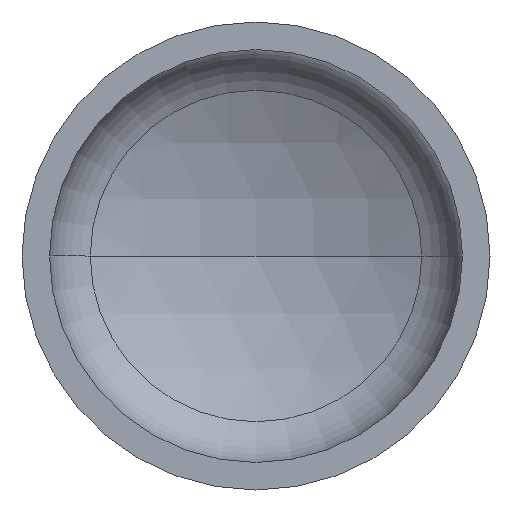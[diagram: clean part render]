
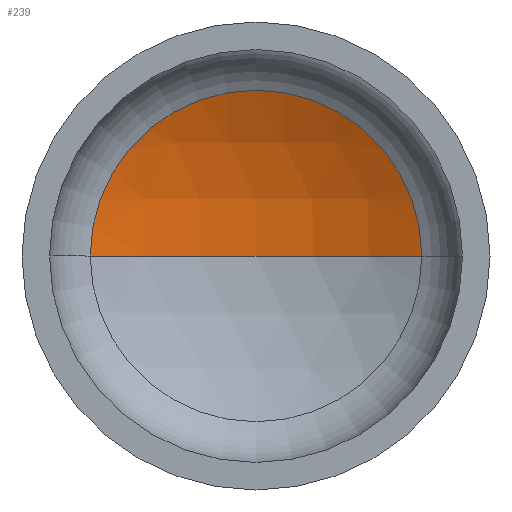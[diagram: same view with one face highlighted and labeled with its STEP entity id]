
A CAD part, front view. The second image highlights one B-rep face of the part: STEP entity #239.
In plain terms, the highlighted spherical face has radius 640 mm.
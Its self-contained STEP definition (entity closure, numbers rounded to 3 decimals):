
#6 = FACE_OUTER_BOUND ( 'NONE', #261, .T. ) ;
#14 = DIRECTION ( 'NONE',  ( -1., 0., 0. ) ) ;
#17 = DIRECTION ( 'NONE',  ( 0., 0., -1. ) ) ;
#19 = CARTESIAN_POINT ( 'NONE',  ( 283.34, 262.083, 0. ) ) ;
#33 = EDGE_CURVE ( 'NONE', #161, #193, #133, .T. ) ;
#34 = EDGE_CURVE ( 'NONE', #369, #161, #219, .T. ) ;
#55 = CARTESIAN_POINT ( 'NONE',  ( 0., -311.78, 0. ) ) ;
#56 = AXIS2_PLACEMENT_3D ( 'NONE', #146, #362, #233 ) ;
#57 = DIRECTION ( 'NONE',  ( -1., 0., 0. ) ) ;
#92 = ORIENTED_EDGE ( 'NONE', *, *, #33, .T. ) ;
#126 = AXIS2_PLACEMENT_3D ( 'NONE', #136, #352, #170 ) ;
#133 = CIRCLE ( 'NONE', #126, 283.34 ) ;
#134 = ORIENTED_EDGE ( 'NONE', *, *, #34, .T. ) ;
#136 = CARTESIAN_POINT ( 'NONE',  ( 0., 262.083, 0. ) ) ;
#146 = CARTESIAN_POINT ( 'NONE',  ( 0., -311.78, 0. ) ) ;
#149 = AXIS2_PLACEMENT_3D ( 'NONE', #343, #17, #14 ) ;
#161 = VERTEX_POINT ( 'NONE', #19 ) ;
#170 = DIRECTION ( 'NONE',  ( 1., 0., 0. ) ) ;
#193 = VERTEX_POINT ( 'NONE', #375 ) ;
#219 = CIRCLE ( 'NONE', #149, 640. ) ;
#233 = DIRECTION ( 'NONE',  ( 1., 0., 0. ) ) ;
#238 = CIRCLE ( 'NONE', #56, 640. ) ;
#239 = ADVANCED_FACE ( 'NONE', ( #6 ), #350, .F. ) ;
#261 = EDGE_LOOP ( 'NONE', ( #386, #134, #92 ) ) ;
#322 = EDGE_CURVE ( 'NONE', #369, #193, #238, .T. ) ;
#343 = CARTESIAN_POINT ( 'NONE',  ( 0., -311.78, 0. ) ) ;
#350 = SPHERICAL_SURFACE ( 'NONE', #354, 640. ) ;
#352 = DIRECTION ( 'NONE',  ( 0., -1., 0. ) ) ;
#354 = AXIS2_PLACEMENT_3D ( 'NONE', #55, #394, #57 ) ;
#362 = DIRECTION ( 'NONE',  ( 0., 0., 1. ) ) ;
#369 = VERTEX_POINT ( 'NONE', #379 ) ;
#375 = CARTESIAN_POINT ( 'NONE',  ( -283.34, 262.083, 0. ) ) ;
#379 = CARTESIAN_POINT ( 'NONE',  ( 0., 328.22, 0. ) ) ;
#386 = ORIENTED_EDGE ( 'NONE', *, *, #322, .F. ) ;
#394 = DIRECTION ( 'NONE',  ( 0., 0., -1. ) ) ;
